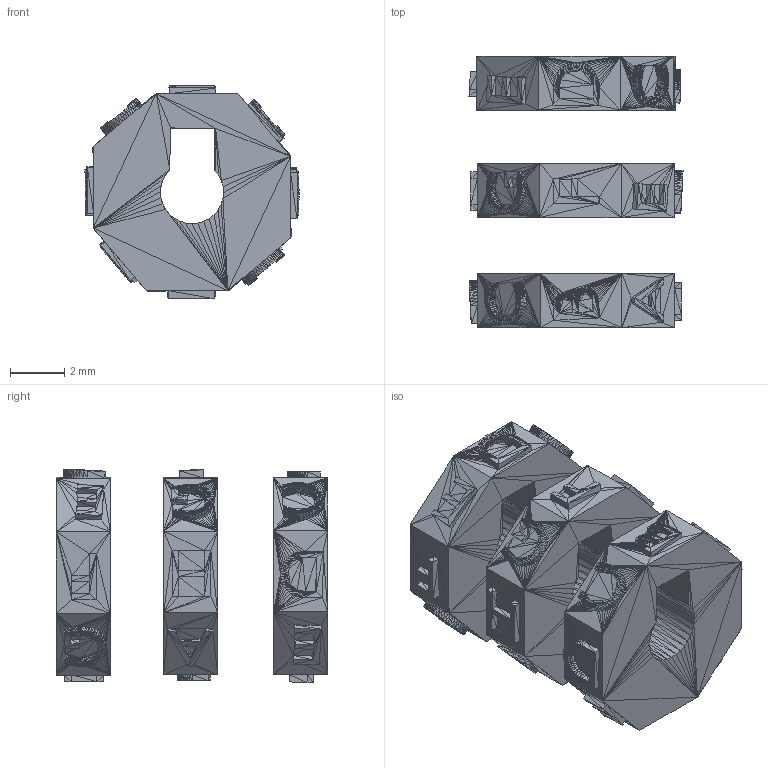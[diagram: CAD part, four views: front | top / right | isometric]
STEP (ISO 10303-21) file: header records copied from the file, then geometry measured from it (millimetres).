
FILE_DESCRIPTION((''),'2;1');
FILE_NAME('ball', '2026-10-03T10:00:21', (''), (''), 'ImageToStl.com STEP Converter','', '');
FILE_SCHEMA(('AUTOMOTIVE_DESIGN_CC2'));
Length unit declared in the file: metre
Products named in the file (1): product0
Bounding box: 7.92 x 10.05 x 7.91 mm (x, y, z)
Surface area: 482.9 mm2 (no closed solid volume)
Topology: 0 solids, 5304 shells, 5304 faces, 15912 edges, 2652 vertices
Faces by surface type: plane 5304
Entity records: 122020 total; most frequent: DIRECTION 26522, ORIENTED_EDGE 15912, EDGE_CURVE 15912, LINE 15912, VECTOR 15912, AXIS2_PLACEMENT_3D 5305, FACE_SURFACE 5304, PLANE 5304
